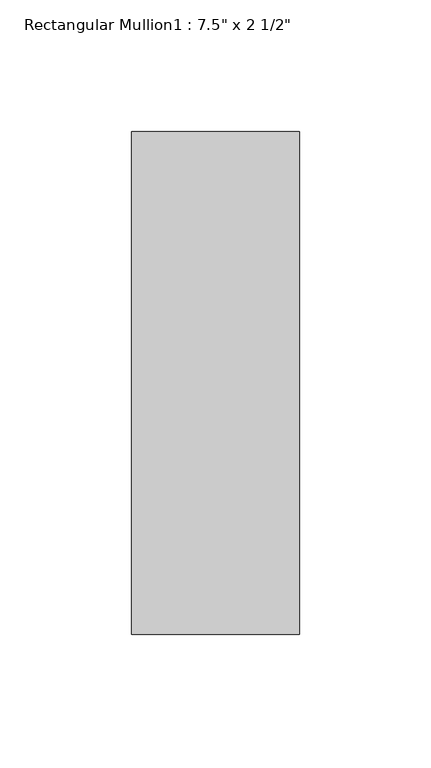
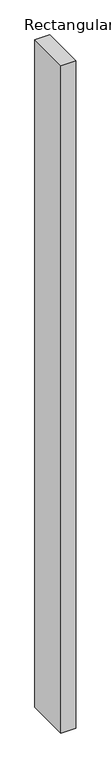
"""IFC4 building model written with IfcOpenShell, lengths in millimetres: member geometry."""

import ifcopenshell
import ifcopenshell.guid

model = None  # the IFC model being written
_history = None  # IfcOwnerHistory: only IFC2X3 demands one
_inside = {}  # id of a spatial element -> (the spatial element, [elements in it])
_under = {}  # id of a project, library or spatial element -> (it, [spatial elements below it])
_declared = {}  # id of a project -> (the project, [libraries it declares])
_typed = {}  # id of a type object -> (the type object, [elements of that type])
_made_of = {}  # id of a material, layer set ... -> (it, [elements and type objects made of it])


def new_model(schema):
    """Start an empty IFC model of exactly this schema.

    Asked for "IFC4X3", IfcOpenShell would pick the latest addendum, in which some entities
    have other attributes; the version numbers below select the first issue.
    IFC2X3 requires an IfcOwnerHistory on every rooted entity: one is made here for all.
    """
    global model, _history
    if schema == "IFC4X3":
        model = ifcopenshell.file(schema_version=(4, 3, 0, 0))
    else:
        model = ifcopenshell.file(schema=schema)
    _inside.clear()
    _under.clear()
    _declared.clear()
    _typed.clear()
    _made_of.clear()
    _history = None
    if model.schema == "IFC2X3":
        org = make("IfcOrganization", Name="unknown")
        user = make(
            "IfcPersonAndOrganization",
            ThePerson=make("IfcPerson", FamilyName="unknown"),
            TheOrganization=org,
        )
        app = make(
            "IfcApplication",
            ApplicationDeveloper=org,
            Version="unknown",
            ApplicationFullName="unknown",
            ApplicationIdentifier="unknown",
        )
        _history = make(
            "IfcOwnerHistory",
            OwningUser=user,
            OwningApplication=app,
            ChangeAction="ADDED",
            CreationDate=0,
        )
    return model


def make(cls, **values):
    """One entity of the class cls with the attributes given. An attribute that is None is left unset."""
    return model.create_entity(
        cls, **{name: value for name, value in values.items() if value is not None}
    )


def rooted(cls, **values):
    """An entity with a GlobalId (a new one), such as an element, a storey or a relation."""
    return make(cls, GlobalId=ifcopenshell.guid.new(), OwnerHistory=_history, **values)


def si_unit(unit_type, name, prefix=None):
    """IfcSIUnit, for example si_unit("LENGTHUNIT", "METRE", prefix="MILLI")."""
    return make("IfcSIUnit", UnitType=unit_type, Prefix=prefix, Name=name)


def assignment(units):
    """IfcUnitAssignment: the units of a project."""
    return None if units is None else make("IfcUnitAssignment", Units=units)


def point(xyz):
    """IfcCartesianPoint."""
    return None if xyz is None else make("IfcCartesianPoint", Coordinates=xyz)


def direction(xyz):
    """IfcDirection."""
    return None if xyz is None else make("IfcDirection", DirectionRatios=xyz)


def frame(location, z_axis=None, x_axis=None):
    """IfcAxis2Placement3D, a coordinate frame: its origin and axes. An axis left out is left unset."""
    return make(
        "IfcAxis2Placement3D",
        Location=point(location),
        Axis=direction(z_axis),
        RefDirection=direction(x_axis),
    )


def origin():
    """The frame at (0, 0, 0) with its axes left unset."""
    return frame((0.0, 0.0, 0.0))


def place(relative_to, where):
    """IfcLocalPlacement: puts the frame where relative to a parent placement (None: the world)."""
    return make(
        "IfcLocalPlacement", PlacementRelTo=relative_to, RelativePlacement=where
    )


def context(
    kind, dimensions, precision=None, world=None, true_north=None, identifier=None
):
    """IfcGeometricRepresentationContext, for example the 3D "Model" context."""
    return make(
        "IfcGeometricRepresentationContext",
        ContextIdentifier=identifier,
        ContextType=kind,
        CoordinateSpaceDimension=dimensions,
        Precision=precision,
        WorldCoordinateSystem=world,
        TrueNorth=true_north,
    )


def project(units=None, contexts=None):
    """IfcProject with its units and contexts."""
    return rooted(
        "IfcProject",
        Name="project",
        RepresentationContexts=contexts,
        UnitsInContext=assignment(units),
    )


def spatial(cls, under=None, at=None, **own):
    """A site, building, storey or space (cls), placed at a placement, below another one or the project."""
    s = rooted(cls, ObjectPlacement=at, **own)
    if under is not None:
        _under.setdefault(under.id(), (under, []))[1].append(s)
    return s


def polyline(points):
    """IfcPolyline through the points."""
    return make("IfcPolyline", Points=[point(p) for p in points])


def outline(outer, holes=None, kind="AREA"):
    """IfcArbitraryClosedProfileDef: a profile drawn as a closed curve; with holes, ...WithVoids."""
    if holes is None:
        return make("IfcArbitraryClosedProfileDef", ProfileType=kind, OuterCurve=outer)
    return make(
        "IfcArbitraryProfileDefWithVoids",
        ProfileType=kind,
        OuterCurve=outer,
        InnerCurves=holes,
    )


def extrude(swept, where, along, depth):
    """IfcExtrudedAreaSolid: the profile swept, set in the frame where, extruded along a direction by depth."""
    return make(
        "IfcExtrudedAreaSolid",
        SweptArea=swept,
        Position=where,
        ExtrudedDirection=direction(along),
        Depth=depth,
    )


def shape(context_of_items, identifier, shape_type, items):
    """IfcShapeRepresentation: the items that make up one representation, for example the "Body"."""
    return make(
        "IfcShapeRepresentation",
        ContextOfItems=context_of_items,
        RepresentationIdentifier=identifier,
        RepresentationType=shape_type,
        Items=items,
    )


def source(mapping_origin, context_of_items, identifier, shape_type, items):
    """IfcRepresentationMap: a shape defined once, which mapped items show again and again."""
    return make(
        "IfcRepresentationMap",
        MappingOrigin=mapping_origin,
        MappedRepresentation=shape(context_of_items, identifier, shape_type, items),
    )


def transform(
    local_origin,
    x_axis=None,
    y_axis=None,
    z_axis=None,
    scale=None,
    scale2=None,
    scale3=None,
    uniform=True,
):
    """IfcCartesianTransformationOperator3D, or its non-uniform kind. x_axis, y_axis, z_axis: its Axis1, 2, 3."""
    if uniform:
        return make(
            "IfcCartesianTransformationOperator3D",
            Axis1=direction(x_axis),
            Axis2=direction(y_axis),
            LocalOrigin=point(local_origin),
            Scale=scale,
            Axis3=direction(z_axis),
        )
    return make(
        "IfcCartesianTransformationOperator3DnonUniform",
        Axis1=direction(x_axis),
        Axis2=direction(y_axis),
        LocalOrigin=point(local_origin),
        Scale=scale,
        Axis3=direction(z_axis),
        Scale2=scale2,
        Scale3=scale3,
    )


def mapped(mapping_source, mapping_target):
    """IfcMappedItem: shows the shape of a source again, moved by a transform."""
    return make(
        "IfcMappedItem", MappingSource=mapping_source, MappingTarget=mapping_target
    )


def made_of(thing, what):
    """Note that an element or type object is made of a material, layer set ...; save() writes the relation."""
    if what is not None:
        _made_of.setdefault(what.id(), (what, []))[1].append(thing)
    return thing


def element(
    cls,
    number,
    at=None,
    inside=None,
    cuts=None,
    type_object=None,
    material=None,
    context=None,
    identifier="Body",
    shape_type=None,
    held_by="IfcProductDefinitionShape",
    body=None,
    shapes=None,
    **own,
):
    """One element of the class cls, such as IfcWall. Its Tag is "e" and its number.

    at: its placement. inside: the storey or other place that contains it. cuts: it is an
    opening in that element (IfcRelVoidsElement). A single representation is given by context,
    identifier, shape_type and body (its items); several are given by shapes. held_by: the class
    of the entity that holds the representations. save() writes the other relations.
    """
    e = rooted(cls, Tag="e%d" % number, ObjectPlacement=at, **own)
    if body is not None:
        shapes = [shape(context, identifier, shape_type, body)]
    if shapes is not None:
        e.Representation = make(held_by, Representations=shapes)
    if inside is not None:
        _inside.setdefault(inside.id(), (inside, []))[1].append(e)
    if cuts is not None:
        rooted(
            "IfcRelVoidsElement", RelatingBuildingElement=cuts, RelatedOpeningElement=e
        )
    if type_object is not None:
        _typed.setdefault(type_object.id(), (type_object, []))[1].append(e)
    return made_of(e, material)


def aggregate(whole, parts):
    """IfcRelAggregates: a whole, such as a stair, and the parts it consists of."""
    return rooted("IfcRelAggregates", RelatingObject=whole, RelatedObjects=parts)


def save(model, path):
    """Write the relations noted so far, then the file.

    IfcRelAggregates (storeys below a building ...), IfcRelContainedInSpatialStructure (elements
    in a storey), IfcRelDefinesByType, IfcRelAssociatesMaterial and IfcRelDeclares: one each for
    every whole, place, type object, material and project.
    """
    for whole, parts in _under.values():
        aggregate(whole, parts)
    for where, things in _inside.values():
        rooted(
            "IfcRelContainedInSpatialStructure",
            RelatedElements=things,
            RelatingStructure=where,
        )
    for kind, things in _typed.values():
        rooted("IfcRelDefinesByType", RelatedObjects=things, RelatingType=kind)
    for what, things in _made_of.values():
        rooted("IfcRelAssociatesMaterial", RelatedObjects=things, RelatingMaterial=what)
    for by, libraries in _declared.values():
        rooted("IfcRelDeclares", RelatingContext=by, RelatedDefinitions=libraries)
    model.write(path)


def member_bc9b8756(model_context):
    return source(origin(), model_context, "Body", "SweptSolid", [
        extrude(outline(polyline([(0.0, -165.1), (-63.5, -165.1), (-63.5, 25.4), (0.0, 25.4), (0.0, -165.1)])), frame((0.0, 0.0, -2984.5), z_axis=(0.0, 0.0, 1.0), x_axis=(1.0, 0.0, 0.0)), (0.0, 0.0, 1.0), 2984.5),
    ])


if __name__ == "__main__":
    model = new_model("IFC4")
    model_context = context("Model", 3, world=origin())
    ifc_project = project(units=[si_unit("LENGTHUNIT", "METRE", prefix="MILLI")], contexts=[model_context])
    site = spatial("IfcSite", under=ifc_project)
    building = spatial("IfcBuilding", under=site)
    placement = place(None, origin())
    member_shape = member_bc9b8756(model_context)
    element("IfcMember", 1, ObjectType="Rectangular Mullion1 : 7.5\" x 2 1/2\"", at=placement, inside=building, context=model_context, shape_type="MappedRepresentation", body=[
        mapped(member_shape, transform((0.0, 0.0, 0.0), x_axis=(1.0, 0.0, 0.0), y_axis=(0.0, 1.0, 0.0), z_axis=(0.0, 0.0, 1.0))),
    ])
    save(model, "model.ifc")
